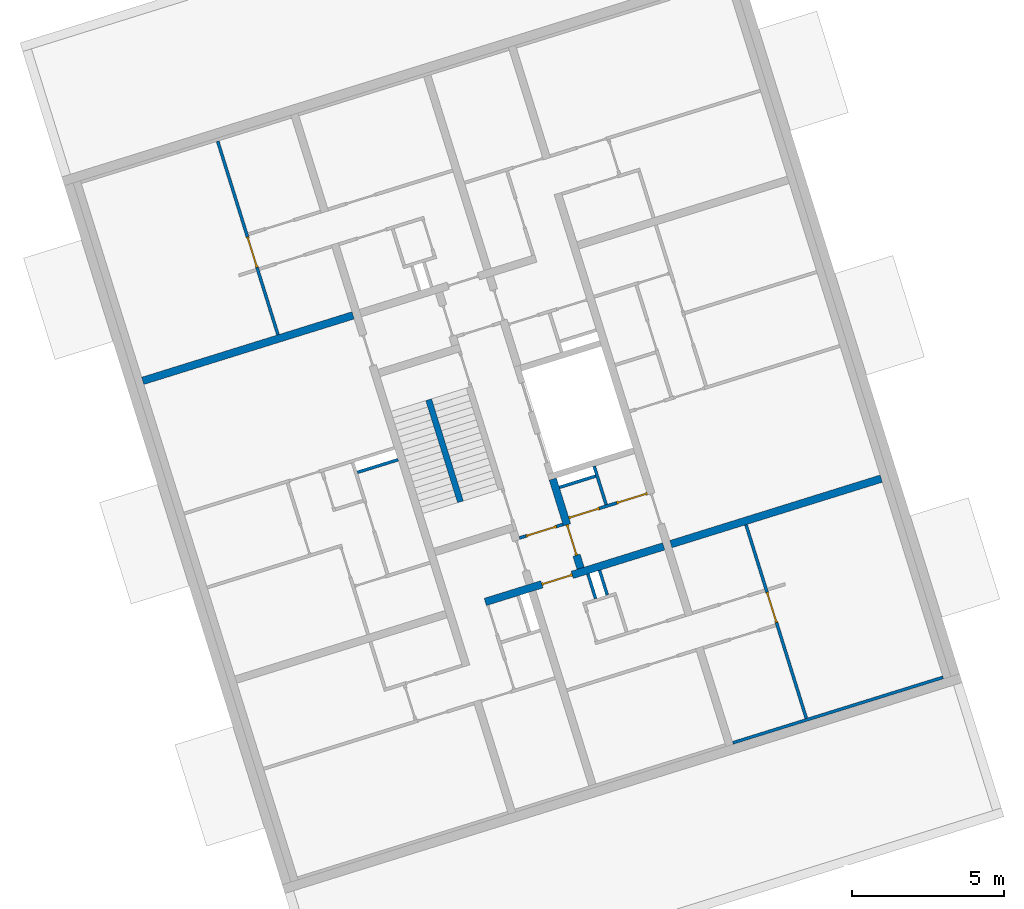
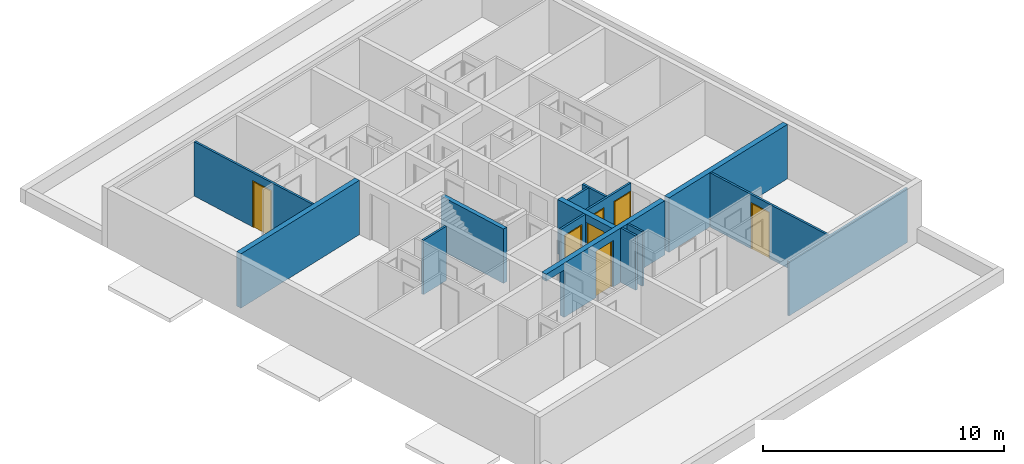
# One storey, part 4 of 9: 15 walls, 7 doors, 8 openings.
"""IFC4 building model written with IfcOpenShell, lengths in metres."""

from ifc_helpers import new_model, entity, si_unit, converted_unit, direction, frame, origin, place, context, subcontext, project, spatial, indexed_curve, outline, extrude, polygons, source, transform, mapped, material, constituent, constituent_set, type_object, type_shapes, element, fill, save


model = new_model("IFC4")

# Units and contexts
model_context = context("Model", 3, precision=1e-05, world=origin(), true_north=direction((6.12323399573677e-17, 1.0)))
body_context = subcontext(model_context, "Body", "Model", "MODEL_VIEW")
ifc_project = project(units=[si_unit("LENGTHUNIT", "METRE"), si_unit("AREAUNIT", "SQUARE_METRE"), converted_unit("PLANEANGLEUNIT", "DEGREE", entity("IfcPlaneAngleMeasure", 0.0174532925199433), si_unit("PLANEANGLEUNIT", "RADIAN"), dimensions=[0, 0, 0, 0, 0, 0, 0]), si_unit("VOLUMEUNIT", "CUBIC_METRE")], contexts=[model_context])

# Site, building, storey
site_placement = place(None, frame((13.1347999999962, 11.9886000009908, 0.0), z_axis=(0.0, 0.0, 1.0), x_axis=(0.954770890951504, 0.297342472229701, 0.0)))
site = spatial("IfcSite", under=ifc_project, at=site_placement, Name="Schiehaven", CompositionType="ELEMENT")
building_placement = place(site_placement, origin())
building = spatial("IfcBuilding", under=site, at=building_placement, Name="VORM huis", CompositionType="ELEMENT")
storey_placement = place(building_placement, frame((0.0, 0.0, 6.9)))
storey = spatial("IfcBuildingStorey", under=building, at=storey_placement, Name="02 tweede verdieping", CompositionType="ELEMENT", Elevation=6.9)

# Wall, openings, door
ifc_material_1 = material(Name="beton_gewapend_ihw", Category="Miscellaneous")
wall_type_1 = type_object("IfcWallType", Name="Basic Wall:28_WA_skelet_wand 250mm_gen", PredefinedType="STANDARD")
wall_1_placement = place(storey_placement, frame((65.125, 11.8999999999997, 0.0)))
wall_1 = element("IfcWall", 1, at=wall_1_placement, inside=storey, type_object=wall_type_1, material=ifc_material_1, Name="Constructieve wand", ObjectType="Wand", PredefinedType="NOTDEFINED", context=body_context, shape_type="Tessellation", body=[
    polygons([(4.09999999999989, -0.125, 2.34999999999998), (4.09999999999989, -0.125, 1.08286712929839e-15), (7.24999999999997, -0.125, 1.08286712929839e-15), (7.24999999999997, -0.125, 2.75), (-3.43598028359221e-15, -0.125, 2.75), (-3.43598028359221e-15, -0.125, 2.4), (1.10000000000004, -0.125, 2.4), (1.10000000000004, -0.125, 1.08286712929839e-15), (3.04999999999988, -0.125, 1.08286712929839e-15), (3.04999999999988, -0.125, 2.34999999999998), (7.24999999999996, 0.125, 1.08286712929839e-15), (4.09999999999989, 0.125, 1.08286712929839e-15), (4.09999999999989, 0.125, 2.34999999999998), (3.04999999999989, 0.125, 2.34999999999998), (3.04999999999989, 0.125, 1.08286712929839e-15), (1.10000000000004, 0.125, 1.08286712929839e-15), (1.10000000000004, 0.125, 2.4), (-9.33960364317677e-16, 0.125, 2.4), (-9.33960364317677e-16, 0.125, 2.75), (7.24999999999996, 0.125, 2.75)], [[[1, 2, 3, 4, 5, 6, 7, 8, 9, 10]], [[11, 12, 13, 14, 15, 16, 17, 18, 19, 20]], [[9, 8, 16, 15]], [[5, 4, 20, 19]], [[5, 19, 18, 6]], [[15, 14, 10, 9]], [[13, 12, 2, 1]], [[14, 13, 1, 10]], [[17, 7, 6, 18]], [[7, 17, 16, 8]], [[4, 3, 11, 20]], [[3, 2, 12, 11]]], closed=True),
])
opening_1_placement = place(wall_1_placement, origin())
element("IfcOpeningElement", 2, at=opening_1_placement, cuts=wall_1, Name="Constructieve wand", PredefinedType="OPENING", context=body_context, shape_type="SweptSolid", body=[
    extrude(outline(indexed_curve([(-1.2, -0.550000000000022), (1.2, -0.550000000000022), (1.2, 0.550000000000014), (-1.2, 0.550000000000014), (-1.2, -0.550000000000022)], self_intersect=False)), frame((0.55000000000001, -0.125, 1.2), z_axis=(0.0, 1.0, 0.0), x_axis=(0.0, 0.0, -1.0)), (0.0, 0.0, 1.0), 0.249999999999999),
])
opening_2_placement = place(wall_1_placement, frame((3.04999999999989, -0.124999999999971, 0.0)))
opening_2 = element("IfcOpeningElement", 3, at=opening_2_placement, cuts=wall_1, Name="Woningtoegangsdeur", PredefinedType="OPENING", context=body_context, shape_type="SweptSolid", body=[
    extrude(outline(indexed_curve([(2.34999999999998, 1.8457481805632e-29), (2.34999999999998, 1.05), (0.0, 1.05), (0.0, 1.8457481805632e-29), (2.34999999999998, 1.8457481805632e-29)], self_intersect=False)), frame((0.0, 0.0, 0.0), z_axis=(0.0, 1.0, 0.0), x_axis=(0.0, 0.0, 1.0)), (0.0, 0.0, 1.0), 0.25),
])
ifc_material_2 = material(Name="PD_a_binnenwandopeningen", Category="Miscellaneous")
ifc_constituent_1 = constituent(ifc_material_2, Name="PD_a_binnenwandopeningen", Category="Miscellaneous")
ifc_material_3 = material(Name="metaal_aluminium_ntb", Category="Miscellaneous")
ifc_constituent_2 = constituent(ifc_material_3, Name="metaal_aluminium_ntb", Category="Miscellaneous")
ifc_constituent_set_1 = constituent_set(constituents=[ifc_constituent_1, ifc_constituent_2])
ifc_constituent_3 = constituent(ifc_material_2, Name="PD_a_binnenwandopeningen", Category="Miscellaneous")
ifc_constituent_4 = constituent(ifc_material_3, Name="Panel", Category="Miscellaneous")
ifc_constituent_set_2 = constituent_set(constituents=[ifc_constituent_3, ifc_constituent_4])
door_type_1 = type_object("IfcDoorType", Name="32_DO_binnendeur enkel:woningtoegangsdeur", OperationType="REVOLVING", PredefinedType="DOOR", material=ifc_constituent_set_2)
shared_shape_1 = source(origin(), body_context, "Body", "SweptSolid", [
    extrude(outline(indexed_curve([(0.475, -1.16249999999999), (0.525000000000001, -1.16249999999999), (0.525000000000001, 1.18749999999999), (-0.525000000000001, 1.18749999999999), (-0.525000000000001, -1.16249999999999), (-0.475, -1.16249999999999), (-0.475, 1.13749999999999), (0.475, 1.13749999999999), (0.475, -1.16249999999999)], self_intersect=False)), frame((0.525000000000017, 0.174999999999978, 1.16249999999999), z_axis=(0.0, -1.0, 0.0), x_axis=(1.0, 0.0, 0.0)), (0.0, 0.0, 1.0), 0.1),
    extrude(outline(indexed_curve([(-0.475, -0.025), (0.475, -0.025), (0.475, 0.025), (-0.475, 0.025), (-0.475, -0.025)], self_intersect=False)), frame((0.525000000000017, 0.12499999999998, 0.0)), (0.0, 0.0, 1.0), 2.29999999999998),
])
type_shapes(door_type_1, [shared_shape_1])
door_1_placement = place(opening_2_placement, origin())
door_1 = element("IfcDoor", 4, at=door_1_placement, inside=storey, type_object=door_type_1, material=ifc_constituent_set_1, Name="Woningtoegangsdeur", ObjectType="Deur", OperationType="REVOLVING", OverallHeight=2.34999999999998, OverallWidth=1.05, PredefinedType="DOOR", context=body_context, shape_type="MappedRepresentation", body=[
    mapped(shared_shape_1, transform((0.0, 0.0, 0.0), scale=1.0)),
])
fill(opening_2, door_1)

# Walls
ifc_material_4 = material(Name="ntb_ntb_ntb", Category="Miscellaneous")
wall_type_2 = type_object("IfcWallType", Name="Basic Wall:21_WA_gevel_binnenspouwwand 100mm_gen", PredefinedType="STANDARD")
wall_2_placement = place(storey_placement, frame((79.8750000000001, 5.04999999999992, 0.0), z_axis=(0.0, 0.0, 1.0), x_axis=(-1.0, 0.0, 0.0)))
element("IfcWall", 5, at=wall_2_placement, inside=storey, type_object=wall_type_2, material=ifc_material_4, Name="Binnenspouwblad", ObjectType="Wand", PredefinedType="NOTDEFINED", context=body_context, shape_type="SweptSolid", body=[
    extrude(outline(indexed_curve([(7.24999999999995, 0.0499999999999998), (5.48749790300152e-18, 0.0499999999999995), (-5.48749790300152e-18, -0.0499999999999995), (7.24999999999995, -0.0499999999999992), (7.24999999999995, 0.0499999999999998)], self_intersect=False)), origin(), (0.0, 0.0, 1.0), 2.75),
])
ifc_material_5 = material(Name="beton_gewapend_prefab-element", Category="Miscellaneous")
wall_type_3 = type_object("IfcWallType", Name="Basic Wall:28_WA_skelet_wand 200mm_gen", PredefinedType="STANDARD")
wall_3_placement = place(storey_placement, frame((66.4250000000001, 15.2899999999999, 0.0), z_axis=(0.0, 0.0, 1.0), x_axis=(0.0, 1.0, 0.0)))
element("IfcWall", 6, at=wall_3_placement, inside=storey, type_object=wall_type_3, material=ifc_material_5, Name="Constructieve wand", ObjectType="Wand", PredefinedType="NOTDEFINED", context=body_context, shape_type="SweptSolid", body=[
    extrude(outline(indexed_curve([(3.52, 0.100000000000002), (2.77363704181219e-16, 0.100000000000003), (-2.77363704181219e-16, -0.100000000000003), (3.52, -0.100000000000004), (3.52, 0.100000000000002)], self_intersect=False)), origin(), (0.0, 0.0, 1.0), 2.75),
])
wall_type_4 = type_object("IfcWallType", Name="Basic Wall:22_WA_afbouw_binnenwand 250mm_gen", PredefinedType="STANDARD")
wall_4_placement = place(storey_placement, frame((64.8749999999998, 22.1999999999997, 0.0), z_axis=(0.0, 0.0, 1.0), x_axis=(-1.0, 0.0, 0.0)))
element("IfcWall", 7, at=wall_4_placement, inside=storey, type_object=wall_type_4, material=ifc_material_4, Name="Binnenwand", ObjectType="Wand", PredefinedType="NOTDEFINED", context=body_context, shape_type="SweptSolid", body=[
    extrude(outline(indexed_curve([(7.24999999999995, 0.125000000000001), (1.36042581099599e-15, 0.125000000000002), (-1.36042581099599e-15, -0.125000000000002), (7.24999999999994, -0.125000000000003), (7.24999999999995, 0.125000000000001)], self_intersect=False)), origin(), (0.0, 0.0, 1.0), 2.75),
])
wall_5_placement = place(storey_placement, frame((72.6249999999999, 11.8999999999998, 0.0)))
element("IfcWall", 8, at=wall_5_placement, inside=storey, type_object=wall_type_4, material=ifc_material_4, Name="Binnenwand", ObjectType="Wand", PredefinedType="NOTDEFINED", context=body_context, shape_type="SweptSolid", body=[
    extrude(outline(indexed_curve([(7.24999999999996, 0.124999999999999), (1.36514404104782e-15, 0.125), (-1.36514404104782e-15, -0.125), (7.24999999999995, -0.125000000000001), (7.24999999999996, 0.124999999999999)], self_intersect=False)), origin(), (0.0, 0.0, 1.0), 2.75),
])

# Wall, opening, door
wall_6_placement = place(storey_placement, frame((69.5499999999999, 15.0999999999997, 0.0), z_axis=(0.0, 0.0, 1.0), x_axis=(0.0, -1.0, 0.0)))
wall_6 = element("IfcWall", 9, at=wall_6_placement, inside=storey, type_object=wall_type_4, material=ifc_material_4, Name="Binnenwand", ObjectType="Wand", PredefinedType="NOTDEFINED", context=body_context, shape_type="Tessellation", body=[
    polygons([(2.62500000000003, -0.125000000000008, 2.34999999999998), (2.62500000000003, -0.125000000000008, 1.08286712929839e-15), (3.07499999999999, -0.125000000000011, 1.08286712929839e-15), (3.07499999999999, -0.125000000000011, 2.75), (1.575, -0.125000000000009, 2.75), (1.475, -0.125000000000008, 2.75), (0.0, -0.125000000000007, 2.75), (0.0, -0.125000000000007, 1.08286712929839e-15), (1.475, -0.125000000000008, 0.0), (1.57500000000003, -0.125000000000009, 1.08286712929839e-15), (1.57500000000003, -0.125000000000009, 2.34999999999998), (3.07499999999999, 0.124999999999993, 1.08286712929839e-15), (2.62500000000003, 0.124999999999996, 1.08286712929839e-15), (2.62500000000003, 0.124999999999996, 2.34999999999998), (1.57500000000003, 0.124999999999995, 2.34999999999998), (1.57500000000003, 0.124999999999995, 1.08286712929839e-15), (-2.16573425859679e-15, 0.125000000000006, 1.08286712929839e-15), (-2.16573425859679e-15, 0.125000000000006, 2.75), (3.07499999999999, 0.124999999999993, 2.75)], [[[1, 2, 3, 4, 5, 6, 7, 8, 9, 10, 11]], [[12, 13, 14, 15, 16, 17, 18, 19]], [[10, 9, 8, 17, 16]], [[4, 3, 12, 19]], [[7, 6, 5, 4, 19, 18]], [[8, 7, 18, 17]], [[16, 15, 11, 10]], [[14, 13, 2, 1]], [[15, 14, 1, 11]], [[3, 2, 13, 12]]], closed=True),
])
opening_3_placement = place(wall_6_placement, frame((2.62500000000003, 0.125000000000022, 0.0)))
opening_3 = element("IfcOpeningElement", 10, at=opening_3_placement, cuts=wall_6, Name="Woningtoegangsdeur", PredefinedType="OPENING", context=body_context, shape_type="SweptSolid", body=[
    extrude(outline(indexed_curve([(2.34999999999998, 1.05), (0.0, 1.05), (0.0, 1.08286712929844e-15), (2.34999999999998, 1.08286712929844e-15), (2.34999999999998, 1.05)], self_intersect=False)), frame((0.0, 0.0, 0.0), z_axis=(0.0, -1.0, 0.0), x_axis=(0.0, 0.0, 1.0)), (0.0, 0.0, 1.0), 0.25),
])
ifc_constituent_5 = constituent(ifc_material_2, Name="PD_a_binnenwandopeningen", Category="Miscellaneous")
ifc_constituent_6 = constituent(ifc_material_3, Name="metaal_aluminium_ntb", Category="Miscellaneous")
ifc_constituent_set_3 = constituent_set(constituents=[ifc_constituent_5, ifc_constituent_6])
ifc_constituent_7 = constituent(ifc_material_2, Name="PD_a_binnenwandopeningen", Category="Miscellaneous")
ifc_constituent_8 = constituent(ifc_material_3, Name="Panel", Category="Miscellaneous")
ifc_constituent_set_4 = constituent_set(constituents=[ifc_constituent_7, ifc_constituent_8])
door_type_2 = type_object("IfcDoorType", Name="32_DO_binnendeur enkel:woningtoegangsdeur", OperationType="REVOLVING", PredefinedType="DOOR", material=ifc_constituent_set_4)
shared_shape_2 = source(origin(), body_context, "Body", "SweptSolid", [
    extrude(outline(indexed_curve([(-1.16249999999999, -0.525000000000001), (1.18749999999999, -0.525), (1.18749999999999, 0.525000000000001), (-1.16249999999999, 0.525000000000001), (-1.16249999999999, 0.475), (1.13749999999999, 0.475), (1.13749999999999, -0.475), (-1.16249999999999, -0.475), (-1.16249999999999, -0.525000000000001)], self_intersect=False)), frame((0.525000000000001, 0.0749999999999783, 1.16249999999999), z_axis=(0.0, 1.0, 0.0), x_axis=(0.0, 0.0, 1.0)), (0.0, 0.0, 1.0), 0.1),
    extrude(outline(indexed_curve([(-0.025, -0.475), (0.025, -0.475), (0.025, 0.475), (-0.025, 0.475), (-0.025, -0.475)], self_intersect=False)), frame((0.525000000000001, 0.12499999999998, 0.0), z_axis=(0.0, 0.0, 1.0), x_axis=(0.0, 1.0, 0.0)), (0.0, 0.0, 1.0), 2.29999999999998),
])
type_shapes(door_type_2, [shared_shape_2])
door_2_placement = place(opening_3_placement, frame((0.0, 0.0, 0.0), z_axis=(0.0, 0.0, 1.0), x_axis=(-1.0, 0.0, 0.0)))
door_2 = element("IfcDoor", 11, at=door_2_placement, inside=storey, type_object=door_type_2, material=ifc_constituent_set_3, Name="Woningtoegangsdeur", ObjectType="Deur", OperationType="REVOLVING", OverallHeight=2.34999999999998, OverallWidth=1.05, PredefinedType="DOOR", context=body_context, shape_type="MappedRepresentation", body=[
    mapped(shared_shape_2, transform((0.0, 0.0, 0.0), scale=1.0)),
])
fill(opening_3, door_2)

wall_type_5 = type_object("IfcWallType", Name="Basic Wall:22_WA_afbouw_binnenwand 100mm_gen", PredefinedType="STANDARD")
wall_7_placement = place(storey_placement, frame((67.9249999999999, 13.5749999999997, 0.0)))
wall_7 = element("IfcWall", 12, at=wall_7_placement, inside=storey, type_object=wall_type_5, material=ifc_material_4, Name="Binnenwand", ObjectType="Wand", PredefinedType="NOTDEFINED", context=body_context, shape_type="Tessellation", body=[
    polygons([(1.5, -0.0500000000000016, 2.75), (2.96853060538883e-15, -0.0500000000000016, 2.75), (2.96853060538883e-15, -0.0500000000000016, 2.34999999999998), (2.96853060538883e-15, -0.0500000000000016, 1.08286712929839e-15), (0.225000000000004, -0.0500000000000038, 1.08286712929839e-15), (0.225000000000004, -0.0500000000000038, 2.34999999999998), (1.27500000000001, -0.0500000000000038, 2.34999999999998), (1.27500000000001, -0.0500000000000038, 1.08286712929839e-15), (1.5, -0.0500000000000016, 1.08286712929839e-15), (1.5, -0.0500000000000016, 2.34999999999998), (4.71986391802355e-15, 0.0499999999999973, 2.75), (1.5, 0.0500000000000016, 2.75), (1.5, 0.0500000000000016, 1.08286712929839e-15), (1.27500000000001, 0.0499999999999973, 1.08286712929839e-15), (1.27500000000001, 0.0499999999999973, 2.34999999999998), (0.225000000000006, 0.0499999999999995, 2.34999999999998), (0.225000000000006, 0.0499999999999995, 1.08286712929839e-15), (4.71986391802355e-15, 0.0499999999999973, 1.08286712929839e-15)], [[[1, 2, 3, 4, 5, 6, 7, 8, 9, 10]], [[11, 12, 13, 14, 15, 16, 17, 18]], [[4, 18, 17, 5]], [[2, 1, 12, 11]], [[16, 6, 5, 17]], [[6, 16, 15, 7]], [[7, 15, 14, 8]], [[4, 3, 2, 11, 18]], [[1, 10, 9, 13, 12]], [[13, 9, 8, 14]]], closed=True),
])
opening_4_placement = place(wall_7_placement, frame((0.225000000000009, -0.0499999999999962, 0.0)))
opening_4 = element("IfcOpeningElement", 13, at=opening_4_placement, cuts=wall_7, Name="Vluchtdeur", PredefinedType="OPENING", context=body_context, shape_type="SweptSolid", body=[
    extrude(outline(indexed_curve([(2.34999999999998, 1.05), (0.0, 1.05), (0.0, 1.86682906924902e-29), (2.34999999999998, 1.86682906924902e-29), (2.34999999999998, 1.05)], self_intersect=False)), frame((0.0, 0.0, 0.0), z_axis=(0.0, 1.0, 0.0), x_axis=(0.0, 0.0, 1.0)), (0.0, 0.0, 1.0), 0.1),
])
ifc_constituent_9 = constituent(ifc_material_2, Name="PD_a_binnenwandopeningen", Category="Miscellaneous")
ifc_constituent_10 = constituent(ifc_material_3, Name="metaal_aluminium_ntb", Category="Miscellaneous")
ifc_constituent_set_5 = constituent_set(constituents=[ifc_constituent_9, ifc_constituent_10])
ifc_constituent_11 = constituent(ifc_material_2, Name="PD_a_binnenwandopeningen", Category="Miscellaneous")
ifc_constituent_12 = constituent(ifc_material_3, Name="Panel", Category="Miscellaneous")
ifc_constituent_set_6 = constituent_set(constituents=[ifc_constituent_11, ifc_constituent_12])
door_type_3 = type_object("IfcDoorType", Name="32_DO_binnendeur enkel:binnendeur zelfsluitend 30min", OperationType="NOTDEFINED", PredefinedType="DOOR", material=ifc_constituent_set_6)
shared_shape_3 = source(origin(), body_context, "Body", "SweptSolid", [
    extrude(outline(indexed_curve([(-1.16249999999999, -0.525000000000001), (1.18749999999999, -0.525), (1.18749999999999, 0.525), (-1.16249999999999, 0.525), (-1.16249999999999, 0.475), (1.13749999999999, 0.475), (1.13749999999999, -0.475), (-1.16249999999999, -0.475), (-1.16249999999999, -0.525000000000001)], self_intersect=False)), frame((0.525000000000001, 0.0, 1.16249999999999), z_axis=(0.0, 1.0, 0.0), x_axis=(0.0, 0.0, 1.0)), (0.0, 0.0, 1.0), 0.1),
    extrude(outline(indexed_curve([(-0.025, -0.475), (0.025, -0.475), (0.025, 0.475), (-0.025, 0.475), (-0.025, -0.475)], self_intersect=False)), frame((0.525000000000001, 0.0499999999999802, 0.0), z_axis=(0.0, 0.0, 1.0), x_axis=(0.0, 1.0, 0.0)), (0.0, 0.0, 1.0), 2.29999999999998),
])
type_shapes(door_type_3, [shared_shape_3])
door_3_placement = place(opening_4_placement, origin())
door_3 = element("IfcDoor", 14, at=door_3_placement, inside=storey, type_object=door_type_3, material=ifc_constituent_set_5, Name="Vluchtdeur", ObjectType="Deur", OperationType="NOTDEFINED", OverallHeight=2.34999999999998, OverallWidth=1.05, PredefinedType="DOOR", context=body_context, shape_type="MappedRepresentation", body=[
    mapped(shared_shape_3, transform((0.0, 0.0, 0.0), scale=1.0)),
])
fill(opening_4, door_3)

# Wall
wall_8_placement = place(storey_placement, frame((69.7249999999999, 11.7749999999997, 0.0), z_axis=(0.0, 0.0, 1.0), x_axis=(0.0, -1.0, 0.0)))
element("IfcWall", 15, at=wall_8_placement, inside=storey, type_object=wall_type_5, material=ifc_material_4, Name="Binnenwand", ObjectType="Wand", PredefinedType="NOTDEFINED", context=body_context, shape_type="SweptSolid", body=[
    extrude(outline(indexed_curve([(0.850000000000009, 0.0499999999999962), (5.75634952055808e-16, 0.0499999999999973), (-5.75634952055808e-16, -0.0499999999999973), (0.850000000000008, -0.0499999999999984), (0.850000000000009, 0.0499999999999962)], self_intersect=False)), origin(), (0.0, 0.0, 1.0), 2.75),
])

# Wall, opening, door
wall_9_placement = place(storey_placement, frame((75.175, 11.7749999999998, 0.0), z_axis=(0.0, 0.0, 1.0), x_axis=(0.0, -1.0, 0.0)))
wall_9 = element("IfcWall", 16, at=wall_9_placement, inside=storey, type_object=wall_type_5, material=ifc_material_4, Name="Binnenwand", ObjectType="Wand", PredefinedType="NOTDEFINED", context=body_context, shape_type="Tessellation", body=[
    polygons([(0.0, -0.050000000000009, 1.08286712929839e-15), (2.19999999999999, -0.0500000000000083, 0.0), (2.29999999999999, -0.0500000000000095, 0.0), (2.325, -0.0500000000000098, 1.08286712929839e-15), (2.325, -0.0500000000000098, 2.34999999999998), (3.375, -0.0500000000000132, 2.34999999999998), (3.375, -0.0500000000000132, 1.08286712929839e-15), (3.39999999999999, -0.0500000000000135, 0.0), (3.49999999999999, -0.050000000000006, 0.0), (6.67499999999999, -0.0500000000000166, 1.08286712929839e-15), (6.67499999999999, -0.0500000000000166, 2.75), (3.49999999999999, -0.050000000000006, 2.75), (3.39999999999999, -0.0500000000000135, 2.75), (2.29999999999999, -0.0500000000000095, 2.75), (2.19999999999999, -0.0500000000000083, 2.75), (0.0, -0.050000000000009, 2.75), (2.325, 0.0499999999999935, 2.34999999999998), (2.325, 0.0499999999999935, 1.08286712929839e-15), (2.29999999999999, 0.0499999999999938, 0.0), (2.19999999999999, 0.0499999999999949, 0.0), (0.0, 0.0499999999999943, 1.08286712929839e-15), (0.0, 0.0499999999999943, 2.75), (2.19999999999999, 0.0499999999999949, 2.75), (2.29999999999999, 0.0499999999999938, 2.75), (6.67499999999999, 0.0499999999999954, 2.75), (6.67499999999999, 0.0499999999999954, 1.08286712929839e-15), (3.375, 0.04999999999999, 1.08286712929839e-15), (3.375, 0.04999999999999, 2.34999999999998)], [[[1, 2, 3, 4, 5, 6, 7, 8, 9, 10, 11, 12, 13, 14, 15, 16]], [[17, 18, 19, 20, 21, 22, 23, 24, 25, 26, 27, 28]], [[21, 20, 19, 18, 4, 3, 2, 1]], [[11, 10, 26, 25]], [[16, 15, 14, 13, 12, 11, 25, 24, 23, 22]], [[1, 16, 22, 21]], [[7, 6, 28, 27]], [[5, 4, 18, 17]], [[6, 5, 17, 28]], [[27, 26, 10, 9, 8, 7]]], closed=True),
])
opening_5_placement = place(wall_9_placement, frame((3.375, 0.0500000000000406, 0.0)))
opening_5 = element("IfcOpeningElement", 17, at=opening_5_placement, cuts=wall_9, Name="Binnendeur", PredefinedType="OPENING", context=body_context, shape_type="SweptSolid", body=[
    extrude(outline(indexed_curve([(2.34999999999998, 0.0), (2.34999999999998, 1.05), (0.0, 1.05), (0.0, 0.0), (2.34999999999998, 0.0)], self_intersect=False)), frame((0.0, 0.0, 0.0), z_axis=(0.0, -1.0, 0.0), x_axis=(0.0, 0.0, 1.0)), (0.0, 0.0, 1.0), 0.1),
])
ifc_constituent_13 = constituent(ifc_material_2, Name="PD_a_binnenwandopeningen", Category="Miscellaneous")
ifc_constituent_14 = constituent(ifc_material_3, Name="metaal_aluminium_ntb", Category="Miscellaneous")
ifc_constituent_set_7 = constituent_set(constituents=[ifc_constituent_13, ifc_constituent_14])
ifc_constituent_15 = constituent(ifc_material_2, Name="PD_a_binnenwandopeningen", Category="Miscellaneous")
ifc_constituent_16 = constituent(ifc_material_3, Name="Panel", Category="Miscellaneous")
ifc_constituent_set_8 = constituent_set(constituents=[ifc_constituent_15, ifc_constituent_16])
door_type_4 = type_object("IfcDoorType", Name="32_DO_binnendeur enkel:binnendeur", OperationType="REVOLVING", PredefinedType="DOOR", material=ifc_constituent_set_8)
shared_shape_4 = source(origin(), body_context, "Body", "SweptSolid", [
    extrude(outline(indexed_curve([(0.475, -1.16249999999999), (0.525, -1.16249999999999), (0.525, 1.18749999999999), (-0.525, 1.18749999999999), (-0.525, -1.16249999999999), (-0.475, -1.16249999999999), (-0.475, 1.13749999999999), (0.475, 1.13749999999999), (0.475, -1.16249999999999)], self_intersect=False)), frame((0.525000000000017, 0.100000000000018, 1.16249999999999), z_axis=(0.0, -1.0, 0.0), x_axis=(1.0, 0.0, 0.0)), (0.0, 0.0, 1.0), 0.1),
    extrude(outline(indexed_curve([(-0.475, -0.025), (0.475, -0.025), (0.475, 0.025), (-0.475, 0.025), (-0.475, -0.025)], self_intersect=False)), frame((0.525000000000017, 0.0499999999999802, 0.0)), (0.0, 0.0, 1.0), 2.29999999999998),
])
type_shapes(door_type_4, [shared_shape_4])
door_4_placement = place(opening_5_placement, frame((0.0, 0.0, 0.0), z_axis=(0.0, 0.0, 1.0), x_axis=(-1.0, 0.0, 0.0)))
door_4 = element("IfcDoor", 18, at=door_4_placement, inside=storey, type_object=door_type_4, material=ifc_constituent_set_7, Name="Binnendeur", ObjectType="Deur", OperationType="REVOLVING", OverallHeight=2.34999999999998, OverallWidth=1.05, PredefinedType="DOOR", context=body_context, shape_type="MappedRepresentation", body=[
    mapped(shared_shape_4, transform((0.0, 0.0, 0.0), scale=1.0)),
])
fill(opening_5, door_4)

# Wall
wall_10_placement = place(storey_placement, frame((70.1249999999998, 11.7749999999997, 0.0), z_axis=(0.0, 0.0, 1.0), x_axis=(0.0, -1.0, 0.0)))
element("IfcWall", 19, at=wall_10_placement, inside=storey, type_object=wall_type_5, material=ifc_material_4, Name="Binnenwand", ObjectType="Wand", PredefinedType="NOTDEFINED", context=body_context, shape_type="SweptSolid", body=[
    extrude(outline(indexed_curve([(0.850000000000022, 0.0499999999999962), (5.75634952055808e-16, 0.0499999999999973), (-5.75634952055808e-16, -0.0499999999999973), (0.850000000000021, -0.0499999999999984), (0.850000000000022, 0.0499999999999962)], self_intersect=False)), origin(), (0.0, 0.0, 1.0), 2.75),
])

# Wall, opening, door
wall_11_placement = place(storey_placement, frame((62.3249999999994, 22.3250000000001, 0.0), z_axis=(0.0, 0.0, 1.0), x_axis=(0.0, 1.0, 0.0)))
wall_11 = element("IfcWall", 20, at=wall_11_placement, inside=storey, type_object=wall_type_5, material=ifc_material_4, Name="Binnenwand", ObjectType="Wand", PredefinedType="NOTDEFINED", context=body_context, shape_type="Tessellation", body=[
    polygons([(0.0, -0.0500000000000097, 1.08286712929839e-15), (2.19999999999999, -0.0500000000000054, 0.0), (2.29999999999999, -0.0500000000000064, 0.0), (2.325, -0.0500000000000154, 1.08286712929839e-15), (2.325, -0.0500000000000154, 2.34999999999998), (3.37500000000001, -0.0500000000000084, 2.34999999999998), (3.37500000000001, -0.0500000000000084, 1.08286712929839e-15), (3.39999999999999, -0.0500000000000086, 0.0), (3.49999999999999, -0.0500000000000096, 0.0), (6.67499999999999, -0.0500000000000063, 1.08286712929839e-15), (6.67499999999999, -0.0500000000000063, 2.75), (3.49999999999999, -0.0500000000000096, 2.75), (3.39999999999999, -0.0500000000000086, 2.75), (2.29999999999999, -0.0500000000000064, 2.75), (2.19999999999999, -0.0500000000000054, 2.75), (0.0, -0.0500000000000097, 2.75), (2.325, 0.0499999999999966, 2.34999999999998), (2.325, 0.0499999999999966, 1.08286712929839e-15), (2.29999999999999, 0.0499999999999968, 0.0), (2.19999999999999, 0.0499999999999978, 0.0), (0.0, 0.0499999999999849, 1.08286712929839e-15), (0.0, 0.0499999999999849, 2.75), (2.19999999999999, 0.0499999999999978, 2.75), (2.29999999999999, 0.0499999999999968, 2.75), (6.67499999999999, 0.0499999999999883, 2.75), (6.67499999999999, 0.0499999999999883, 1.08286712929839e-15), (3.37500000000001, 0.0500000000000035, 1.08286712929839e-15), (3.37500000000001, 0.0500000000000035, 2.34999999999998)], [[[1, 2, 3, 4, 5, 6, 7, 8, 9, 10, 11, 12, 13, 14, 15, 16]], [[17, 18, 19, 20, 21, 22, 23, 24, 25, 26, 27, 28]], [[21, 20, 19, 18, 4, 3, 2, 1]], [[11, 10, 26, 25]], [[16, 15, 14, 13, 12, 11, 25, 24, 23, 22]], [[1, 16, 22, 21]], [[7, 6, 28, 27]], [[5, 4, 18, 17]], [[6, 5, 17, 28]], [[27, 26, 10, 9, 8, 7]]], closed=True),
])
opening_6_placement = place(wall_11_placement, frame((3.37500000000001, 0.0500000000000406, 0.0)))
opening_6 = element("IfcOpeningElement", 21, at=opening_6_placement, cuts=wall_11, Name="Binnendeur", PredefinedType="OPENING", context=body_context, shape_type="SweptSolid", body=[
    extrude(outline(indexed_curve([(2.34999999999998, 0.0), (2.34999999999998, 1.05), (0.0, 1.05), (0.0, 0.0), (2.34999999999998, 0.0)], self_intersect=False)), frame((0.0, 0.0, 0.0), z_axis=(0.0, -1.0, 0.0), x_axis=(0.0, 0.0, 1.0)), (0.0, 0.0, 1.0), 0.1),
])
ifc_constituent_17 = constituent(ifc_material_2, Name="PD_a_binnenwandopeningen", Category="Miscellaneous")
ifc_constituent_18 = constituent(ifc_material_3, Name="metaal_aluminium_ntb", Category="Miscellaneous")
ifc_constituent_set_9 = constituent_set(constituents=[ifc_constituent_17, ifc_constituent_18])
door_5_placement = place(opening_6_placement, frame((0.0, 0.0, 0.0), z_axis=(0.0, 0.0, 1.0), x_axis=(-1.0, 0.0, 0.0)))
door_5 = element("IfcDoor", 22, at=door_5_placement, inside=storey, type_object=door_type_4, material=ifc_constituent_set_9, Name="Binnendeur", ObjectType="Deur", OperationType="REVOLVING", OverallHeight=2.34999999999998, OverallWidth=1.05, PredefinedType="DOOR", context=body_context, shape_type="MappedRepresentation", body=[
    mapped(shared_shape_4, transform((0.0, 0.0, 0.0), scale=1.0)),
])
fill(opening_6, door_5)

# Wall
wall_12_placement = place(storey_placement, frame((64.8771642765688, 17.2249999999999, 0.0), z_axis=(0.0, 0.0, 1.0), x_axis=(-1.0, 0.0, 0.0)))
element("IfcWall", 23, at=wall_12_placement, inside=storey, type_object=wall_type_5, material=ifc_material_4, Name="Binnenwand", ObjectType="Wand", PredefinedType="NOTDEFINED", context=body_context, shape_type="SweptSolid", body=[
    extrude(outline(indexed_curve([(1.40216427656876, 0.0499999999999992), (8.93476767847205e-18, 0.0499999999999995), (-8.93476767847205e-18, -0.0499999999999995), (1.40216427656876, -0.0499999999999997), (1.40216427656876, 0.0499999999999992)], self_intersect=False)), origin(), (0.0, 0.0, 1.0), 2.75),
])

# Wall, openings, doors
wall_13_placement = place(storey_placement, frame((69.6749999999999, 13.7249999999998, 0.0)))
wall_13 = element("IfcWall", 24, at=wall_13_placement, inside=storey, type_object=wall_type_5, material=ifc_material_4, Name="Binnenwand", ObjectType="Wand", PredefinedType="NOTDEFINED", context=body_context, shape_type="Tessellation", body=[
    polygons([(2.70000000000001, -0.0500000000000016, 2.75), (4.0465455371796e-15, -0.0500000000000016, 2.75), (4.0465455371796e-15, -0.0500000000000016, 2.34999999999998), (1.05, -0.0499999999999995, 2.34999999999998), (1.05000000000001, -0.0499999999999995, 1.08286712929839e-15), (1.65, -0.0499999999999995, 1.08286712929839e-15), (1.65, -0.0499999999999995, 2.34999999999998), (2.70000000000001, -0.0500000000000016, 2.34999999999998), (4.32953123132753e-15, 0.0499999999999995, 2.75), (1.24999999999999, 0.0499999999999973, 2.75), (1.34999999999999, 0.0499999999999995, 2.75), (2.70000000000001, 0.0499999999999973, 2.75), (2.70000000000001, 0.0499999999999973, 2.34999999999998), (1.65, 0.0500000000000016, 2.34999999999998), (1.65, 0.0500000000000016, 1.08286712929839e-15), (1.34999999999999, 0.0499999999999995, 0.0), (1.24999999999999, 0.0499999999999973, 0.0), (1.05, 0.0499999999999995, 1.08286712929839e-15), (1.05, 0.0499999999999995, 2.34999999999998), (4.32953123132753e-15, 0.0499999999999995, 2.34999999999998)], [[[1, 2, 3, 4, 5, 6, 7, 8]], [[9, 10, 11, 12, 13, 14, 15, 16, 17, 18, 19, 20]], [[5, 18, 17, 16, 15, 6]], [[12, 1, 8, 13]], [[2, 1, 12, 11, 10, 9]], [[2, 9, 20, 3]], [[4, 19, 18, 5]], [[19, 4, 3, 20]], [[14, 7, 6, 15]], [[7, 14, 13, 8]]], closed=True),
])
opening_7_placement = place(wall_13_placement, frame((1.05, 0.0500000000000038, 0.0)))
opening_7 = element("IfcOpeningElement", 25, at=opening_7_placement, cuts=wall_13, Name="Binnendeur", PredefinedType="OPENING", context=body_context, shape_type="SweptSolid", body=[
    extrude(outline(indexed_curve([(2.34999999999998, 0.0), (2.34999999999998, 1.05), (0.0, 1.05), (0.0, 0.0), (2.34999999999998, 0.0)], self_intersect=False)), frame((0.0, 0.0, 0.0), z_axis=(0.0, -1.0, 0.0), x_axis=(0.0, 0.0, 1.0)), (0.0, 0.0, 1.0), 0.1),
])
opening_8_placement = place(wall_13_placement, frame((2.70000000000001, 0.0500000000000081, 0.0)))
opening_8 = element("IfcOpeningElement", 26, at=opening_8_placement, cuts=wall_13, Name="Binnendeur", PredefinedType="OPENING", context=body_context, shape_type="SweptSolid", body=[
    extrude(outline(indexed_curve([(2.34999999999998, 0.0), (2.34999999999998, 1.05), (0.0, 1.05), (0.0, 0.0), (2.34999999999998, 0.0)], self_intersect=False)), frame((0.0, 0.0, 0.0), z_axis=(0.0, -1.0, 0.0), x_axis=(0.0, 0.0, 1.0)), (0.0, 0.0, 1.0), 0.1),
])
ifc_constituent_19 = constituent(ifc_material_2, Name="PD_a_binnenwandopeningen", Category="Miscellaneous")
ifc_constituent_20 = constituent(ifc_material_3, Name="metaal_aluminium_ntb", Category="Miscellaneous")
ifc_constituent_set_10 = constituent_set(constituents=[ifc_constituent_19, ifc_constituent_20])
door_6_placement = place(opening_7_placement, frame((0.0, 0.0, 0.0), z_axis=(0.0, 0.0, 1.0), x_axis=(-1.0, 0.0, 0.0)))
door_6 = element("IfcDoor", 27, at=door_6_placement, inside=storey, type_object=door_type_4, material=ifc_constituent_set_10, Name="Binnendeur", ObjectType="Deur", OperationType="REVOLVING", OverallHeight=2.34999999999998, OverallWidth=1.05, PredefinedType="DOOR", context=body_context, shape_type="MappedRepresentation", body=[
    mapped(shared_shape_4, transform((0.0, 0.0, 0.0), scale=1.0)),
])
fill(opening_7, door_6)
ifc_constituent_21 = constituent(ifc_material_2, Name="PD_a_binnenwandopeningen", Category="Miscellaneous")
ifc_constituent_22 = constituent(ifc_material_3, Name="metaal_aluminium_ntb", Category="Miscellaneous")
ifc_constituent_set_11 = constituent_set(constituents=[ifc_constituent_21, ifc_constituent_22])
door_7_placement = place(opening_8_placement, frame((0.0, 0.0, 0.0), z_axis=(0.0, 0.0, 1.0), x_axis=(-1.0, 0.0, 0.0)))
door_7 = element("IfcDoor", 28, at=door_7_placement, inside=storey, type_object=door_type_4, material=ifc_constituent_set_11, Name="Binnendeur", ObjectType="Deur", OperationType="REVOLVING", OverallHeight=2.34999999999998, OverallWidth=1.05, PredefinedType="DOOR", context=body_context, shape_type="MappedRepresentation", body=[
    mapped(shared_shape_4, transform((0.0, 0.0, 0.0), scale=1.0)),
])
fill(opening_8, door_7)

# Walls
wall_14_placement = place(storey_placement, frame((69.6749999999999, 14.7749999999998, 0.0)))
element("IfcWall", 29, at=wall_14_placement, inside=storey, type_object=wall_type_5, material=ifc_material_4, Name="Binnenwand", ObjectType="Wand", PredefinedType="NOTDEFINED", context=body_context, shape_type="SweptSolid", body=[
    extrude(outline(indexed_curve([(1.24999999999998, 0.0499999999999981), (1.41492847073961e-16, 0.0499999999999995), (-1.41492847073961e-16, -0.0499999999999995), (1.24999999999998, -0.0500000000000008), (1.24999999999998, 0.0499999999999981)], self_intersect=False)), origin(), (0.0, 0.0, 1.0), 2.75),
])
wall_15_placement = place(storey_placement, frame((70.9749999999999, 13.7749999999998, 0.0), z_axis=(0.0, 0.0, 1.0), x_axis=(0.0, 1.0, 0.0)))
element("IfcWall", 30, at=wall_15_placement, inside=storey, type_object=wall_type_5, material=ifc_material_4, Name="Binnenwand", ObjectType="Wand", PredefinedType="NOTDEFINED", context=body_context, shape_type="SweptSolid", body=[
    extrude(outline(indexed_curve([(1.32500000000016, 0.0499999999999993), (-7.6226469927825e-17, 0.0499999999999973), (7.6226469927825e-17, -0.0499999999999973), (1.32500000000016, -0.0499999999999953), (1.32500000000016, 0.0499999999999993)], self_intersect=False)), origin(), (0.0, 0.0, 1.0), 2.75),
])

save(model, "model.ifc")
